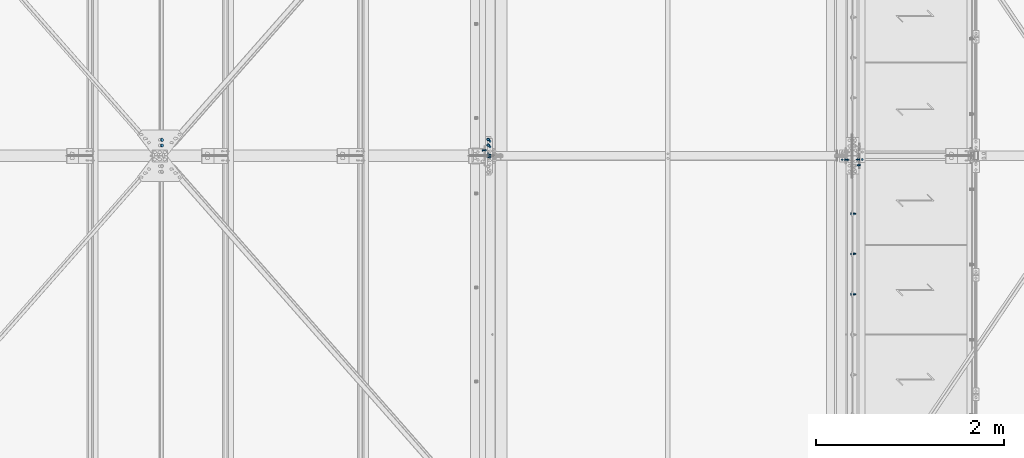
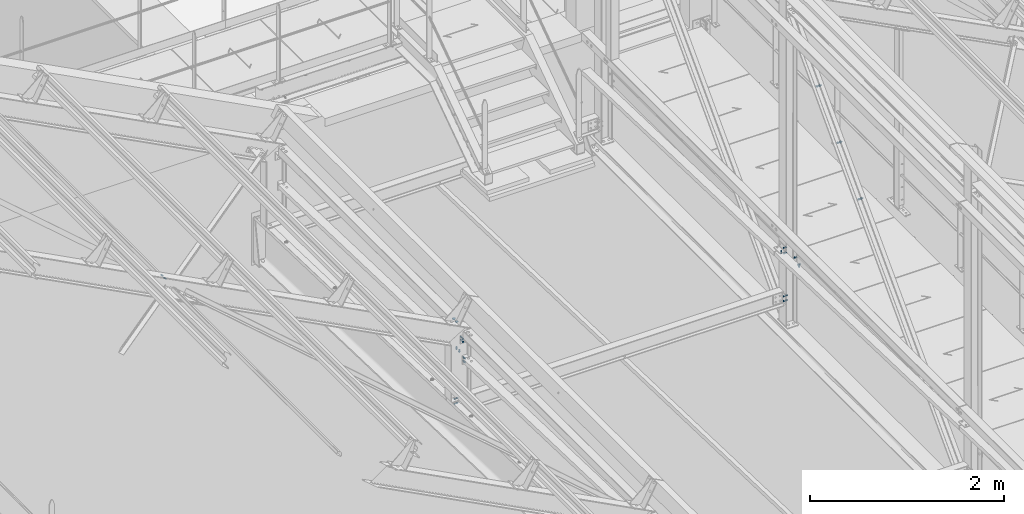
# One storey, part 283 of 362: 17 mechanical fasteners.
"""IFC2X3 building model written with IfcOpenShell, lengths in millimetres."""

from ifc_helpers import new_model, si_unit, frame, frame_2d, origin_with_axes, origin_2d_with_axis, place, context, subcontext, project, spatial, polyline, circle_curve, parameter, trimmed, segment, composite_curve, circle, outline, extrude, source, transform, mapped, material, type_object, element, save


model = new_model("IFC2X3")

# Units and contexts
model_context = context("Model", 3, precision=1e-05, world=origin_with_axes())
body_context = subcontext(model_context, "Body", "Model", "MODEL_VIEW")
ifc_project = project(units=[si_unit("LENGTHUNIT", "METRE", prefix="MILLI"), si_unit("AREAUNIT", "SQUARE_METRE"), si_unit("VOLUMEUNIT", "CUBIC_METRE"), si_unit("MASSUNIT", "GRAM", prefix="KILO"), si_unit("TIMEUNIT", "SECOND"), si_unit("PLANEANGLEUNIT", "RADIAN"), si_unit("SOLIDANGLEUNIT", "STERADIAN"), si_unit("THERMODYNAMICTEMPERATUREUNIT", "DEGREE_CELSIUS"), si_unit("LUMINOUSINTENSITYUNIT", "LUMEN")], contexts=[model_context])

# Site, building, storey
site_placement = place(None, origin_with_axes())
site = spatial("IfcSite", under=ifc_project, at=site_placement, Name="Undefined", CompositionType="ELEMENT")
building_placement = place(site_placement, origin_with_axes())
building = spatial("IfcBuilding", under=site, at=building_placement, Name="Undefined", CompositionType="ELEMENT")
storey_placement = place(building_placement, origin_with_axes())
storey = spatial("IfcBuildingStorey", under=building, at=storey_placement, Name="Undefined", CompositionType="ELEMENT", Elevation=0.0)

# Mechanical fasteners
ifc_material_1 = material(Name="6.8")
mechanical_fastener_type = type_object("IfcMechanicalFastenerType", Name="Bolt assembly")
shared_shape_1 = source(origin_with_axes(), body_context, "Body", "SweptSolid", [
    extrude(circle(Radius=15.0, at=origin_2d_with_axis()), frame((0.0, 0.0, 0.0), z_axis=(0.0, 1.0, 0.0), x_axis=(1.0, 0.0, 0.0)), (0.0, 0.0, 1.0), 4.1),
])
for number, where, z_axis, x_axis, name in (
    (1, (16133.5387402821, 11509.9989316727, 10309.7134244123), (-0.886082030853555, 2.26369604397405e-05, 0.463528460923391), (2.00950000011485e-05, 0.999999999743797, -1.04209999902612e-05), "Bolt assembly"),
    (2, (19599.9999999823, 11573.5, 8550.0), (1.0, 0.0, 0.0), (0.0, -1.0, 0.0), "Bolt assembly"),
):
    element("IfcMechanicalFastener", number, at=place(storey_placement, frame(where, z_axis=z_axis, x_axis=x_axis)), inside=storey, type_object=mechanical_fastener_type, material=ifc_material_1, Name=name, NominalDiameter=30.0, NominalLength=4.0, context=body_context, shape_type="MappedRepresentation", body=[
        mapped(shared_shape_1, transform((0.0, 0.0, 0.0))),
        mapped(shared_shape_1, transform((60.0, 0.0, 0.0))),
    ])
ifc_material_2 = material(Name="8.8-SB-ZINGUE")
shared_shape_2 = source(origin_with_axes(), body_context, "Body", "SweptSolid", [
    extrude(circle(Radius=9.0, at=origin_2d_with_axis()), frame((0.0, -10.9000000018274, 0.0), z_axis=(0.0, 1.0, 0.0), x_axis=(1.0, 0.0, 0.0)), (0.0, 0.0, 1.0), 6.0),
    extrude(circle(Radius=9.0, at=origin_2d_with_axis()), frame((0.0, 4.9000000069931, 0.0), z_axis=(0.0, 1.0, 0.0), x_axis=(1.0, 0.0, 0.0)), (0.0, 0.0, 1.0), 6.1),
    extrude(circle(Radius=9.0, at=origin_2d_with_axis()), frame((0.0, -3.99999923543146, 0.0), z_axis=(0.0, 1.0, 0.0), x_axis=(1.0, 0.0, 0.0)), (0.0, 0.0, 1.0), 8.0),
    extrude(outline(polyline([(13.85640646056, 0.0), (6.92820323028, 12.0000000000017), (-6.92820323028, 12.0000000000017), (-13.85640646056, 0.0), (-6.92820323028, -12.0000000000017), (6.92820323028, -12.0000000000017), (13.85640646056, 0.0)])), frame((0.0, -21.5600000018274, 0.0), z_axis=(0.0, 1.0, 0.0), x_axis=(1.0, 0.0, 0.0)), (0.0, 0.0, 1.0), 10.56),
    extrude(circle(Radius=8.0, at=origin_2d_with_axis()), frame((0.0, -11.0000000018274, 0.0), z_axis=(0.0, 1.0, 0.0), x_axis=(1.0, 0.0, 0.0)), (0.0, 0.0, 1.0), 50.0),
    extrude(outline(polyline([(15.3344231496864, 0.0), (7.6672115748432, 13.2800000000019), (-7.6672115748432, 13.2800000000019), (-15.3344231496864, 0.0), (-7.6672115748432, -13.2800000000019), (7.6672115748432, -13.2800000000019), (15.3344231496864, 0.0)])), frame((0.0, 11.0000000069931, 0.0), z_axis=(0.0, 1.0, 0.0), x_axis=(1.0, 0.0, 0.0)), (0.0, 0.0, 1.0), 10.56),
])
for number, where, z_axis, x_axis, name in (
    (3, (23470.0, 9928.4237971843, 9692.39401441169), (0.0, 1.0, 0.0), (0.0, 0.0, 1.0), "Bolt assembly"),
    (4, (23470.0, 10356.8475934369, 10141.7880296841), (0.0, 1.0, 0.0), (0.0, 0.0, 1.0), "Bolt assembly"),
    (5, (23470.0, 10785.2713896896, 10591.1820449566), (0.0, 1.0, 0.0), (0.0, 0.0, 1.0), "Bolt assembly"),
):
    element("IfcMechanicalFastener", number, at=place(storey_placement, frame(where, z_axis=z_axis, x_axis=x_axis)), inside=storey, type_object=mechanical_fastener_type, material=ifc_material_2, Name=name, NominalDiameter=16.0, NominalLength=50.0, context=body_context, shape_type="MappedRepresentation", body=[
        mapped(shared_shape_2, transform((0.0, 0.0, 0.0))),
    ])
shared_shape_3 = source(origin_with_axes(), body_context, "Body", "SweptSolid", [
    extrude(circle(Radius=7.0, at=origin_2d_with_axis()), frame((0.0, -4.90000000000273, 0.0), z_axis=(0.0, 1.0, 0.0), x_axis=(1.0, 0.0, 0.0)), (0.0, 0.0, 1.0), 5.0),
    extrude(circle(Radius=7.0, at=origin_2d_with_axis()), frame((0.0, -0.100011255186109, 0.0), z_axis=(0.0, 1.0, 0.0), x_axis=(1.0, 0.0, 0.0)), (0.0, 0.0, 1.0), 7.1),
    extrude(outline(polyline([(10.39230484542, 0.0), (5.19615242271, 9.00000000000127), (-5.19615242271, 9.00000000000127), (-10.39230484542, 0.0), (-5.19615242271, -9.00000000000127), (5.19615242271, -9.00000000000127), (10.39230484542, 0.0)])), frame((0.0, -12.9200004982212, 0.0), z_axis=(0.0, 1.0, 0.0), x_axis=(1.0, 0.0, 0.0)), (0.0, 0.0, 1.0), 7.92),
    extrude(circle(Radius=6.0, at=origin_2d_with_axis()), frame((0.0, -5.00000000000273, 0.0), z_axis=(0.0, 1.0, 0.0), x_axis=(1.0, 0.0, 0.0)), (0.0, 0.0, 1.0), 30.0),
    extrude(outline(polyline([(11.5008173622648, 0.0), (5.7504086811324, 9.96000000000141), (-5.7504086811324, 9.96000000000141), (-11.5008173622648, 0.0), (-5.7504086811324, -9.96000000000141), (5.7504086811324, -9.96000000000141), (11.5008173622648, 0.0)])), frame((0.0, 7.0, 0.0), z_axis=(0.0, 1.0, 0.0), x_axis=(1.0, 0.0, 0.0)), (0.0, 0.0, 1.0), 7.92),
])
mechanical_fastener_1_placement = place(storey_placement, frame((23576.49994422, 11359.9999999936, 7950.00000000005), z_axis=(0.0, -1.0, 0.0), x_axis=(-1.0, 0.0, 0.0)))
element("IfcMechanicalFastener", 6, at=mechanical_fastener_1_placement, inside=storey, type_object=mechanical_fastener_type, material=ifc_material_2, Name="Bolt assembly", NominalDiameter=12.0, NominalLength=30.0, context=body_context, shape_type="MappedRepresentation", body=[
    mapped(shared_shape_3, transform((0.0, 0.0, 0.0))),
])
shared_shape_4 = source(origin_with_axes(), body_context, "Body", "SweptSolid", [
    extrude(circle(Radius=7.0, at=origin_2d_with_axis()), frame((0.0, -0.108038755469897, 0.0), z_axis=(0.0, 1.0, 0.0), x_axis=(1.0, 0.0, 0.0)), (0.0, 0.0, 1.0), 5.1),
    extrude(circle(Radius=7.0, at=origin_2d_with_axis()), frame((0.0, -6.4, 0.0), z_axis=(0.0, 1.0, 0.0), x_axis=(1.0, 0.0, 0.0)), (0.0, 0.0, 1.0), 6.0),
    extrude(outline(polyline([(10.39230484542, 0.0), (5.19615242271, 9.00000000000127), (-5.19615242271, 9.00000000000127), (-10.39230484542, 0.0), (-5.19615242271, -9.00000000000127), (5.19615242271, -9.00000000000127), (10.39230484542, 0.0)])), frame((0.0, -14.42, 0.0), z_axis=(0.0, 1.0, 0.0), x_axis=(1.0, 0.0, 0.0)), (0.0, 0.0, 1.0), 7.92),
    extrude(circle(Radius=6.0, at=origin_2d_with_axis()), frame((0.0, -6.5, 0.0), z_axis=(0.0, 1.0, 0.0), x_axis=(1.0, 0.0, 0.0)), (0.0, 0.0, 1.0), 30.0),
    extrude(outline(polyline([(11.5008173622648, 0.0), (5.7504086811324, 9.96000000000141), (-5.7504086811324, 9.96000000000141), (-11.5008173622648, 0.0), (-5.7504086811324, -9.96000000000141), (5.7504086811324, -9.96000000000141), (11.5008173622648, 0.0)])), frame((0.0, 4.99194106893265, 0.0), z_axis=(0.0, 1.0, 0.0), x_axis=(1.0, 0.0, 0.0)), (0.0, 0.0, 1.0), 7.92),
])
mechanical_fastener_2_placement = place(storey_placement, frame((23541.4918295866, 11299.9999999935, 8015.00000000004), z_axis=(0.0, 0.0, 1.0), x_axis=(0.0, 1.0, 0.0)))
element("IfcMechanicalFastener", 7, at=mechanical_fastener_2_placement, inside=storey, type_object=mechanical_fastener_type, material=ifc_material_2, Name="Bolt assembly", NominalDiameter=12.0, NominalLength=30.0, context=body_context, shape_type="MappedRepresentation", body=[
    mapped(shared_shape_4, transform((0.0, 0.0, 0.0))),
])
shared_shape_5 = source(origin_with_axes(), body_context, "Body", "SweptSolid", [
    extrude(circle(Radius=7.0, at=origin_2d_with_axis()), frame((0.0, -0.10007666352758, 0.0), z_axis=(0.0, 1.0, 0.0), x_axis=(1.0, 0.0, 0.0)), (0.0, 0.0, 1.0), 8.6),
    extrude(circle(Radius=7.0, at=origin_2d_with_axis()), frame((0.0, -4.89994333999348, 0.0), z_axis=(0.0, 1.0, 0.0), x_axis=(1.0, 0.0, 0.0)), (0.0, 0.0, 1.0), 5.0),
    extrude(outline(polyline([(10.39230484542, 0.0), (5.19615242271, 9.00000000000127), (-5.19615242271, 9.00000000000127), (-10.39230484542, 0.0), (-5.19615242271, -9.00000000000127), (5.19615242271, -9.00000000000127), (10.39230484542, 0.0)])), frame((0.0, -12.9199433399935, 0.0), z_axis=(0.0, 1.0, 0.0), x_axis=(1.0, 0.0, 0.0)), (0.0, 0.0, 1.0), 7.92),
    extrude(circle(Radius=6.0, at=origin_2d_with_axis()), frame((0.0, -4.99994333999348, 0.0), z_axis=(0.0, 1.0, 0.0), x_axis=(1.0, 0.0, 0.0)), (0.0, 0.0, 1.0), 30.0),
    extrude(outline(polyline([(11.5008173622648, 0.0), (5.7504086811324, 9.96000000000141), (-5.7504086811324, 9.96000000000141), (-11.5008173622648, 0.0), (-5.7504086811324, -9.96000000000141), (5.7504086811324, -9.96000000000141), (11.5008173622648, 0.0)])), frame((0.0, 8.49994421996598, 0.0), z_axis=(0.0, 1.0, 0.0), x_axis=(1.0, 0.0, 0.0)), (0.0, 0.0, 1.0), 7.92),
])
mechanical_fastener_3_placement = place(storey_placement, frame((23536.49994422, 11360.0000009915, 8070.00000000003), z_axis=(0.0, 1.0, 0.0), x_axis=(0.0, 0.0, -1.0)))
element("IfcMechanicalFastener", 8, at=mechanical_fastener_3_placement, inside=storey, type_object=mechanical_fastener_type, material=ifc_material_2, Name="Bolt assembly", NominalDiameter=12.0, NominalLength=30.0, context=body_context, shape_type="MappedRepresentation", body=[
    mapped(shared_shape_5, transform((0.0, 0.0, 0.0))),
])
shared_shape_6 = source(origin_with_axes(), body_context, "Body", "SweptSolid", [
    extrude(circle(Radius=7.0, at=origin_2d_with_axis()), frame((0.0, -3.90012822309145, 0.0), z_axis=(0.0, 1.0, 0.0), x_axis=(1.0, 0.0, 0.0)), (0.0, 0.0, 1.0), 4.0),
    extrude(outline(composite_curve([segment(polyline([(-7.0, 7.0), (7.0, 7.0)]), True, "CONTINUOUS"), segment(trimmed(circle_curve(frame_2d((7.0, 0.0), x_axis=(0.0, 1.0)), 7.0), [parameter(0.0)], [parameter(3.14159265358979)], False, "PARAMETER"), True, "CONTINUOUS"), segment(polyline([(7.0, -7.0), (-7.0, -7.0)]), True, "CONTINUOUS"), segment(trimmed(circle_curve(frame_2d((-7.0, 0.0), x_axis=(0.0, -1.0)), 7.0), [parameter(0.0)], [parameter(3.14159265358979)], False, "PARAMETER"), True, "DISCONTINUOUS")], self_intersect=False)), frame((0.0, -0.100011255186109, 0.0), z_axis=(0.0, 1.0, 0.0), x_axis=(1.0, 0.0, 0.0)), (0.0, 0.0, 1.0), 6.1),
    extrude(outline(polyline([(10.39230484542, 0.0), (5.19615242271, 9.00000000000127), (-5.19615242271, 9.00000000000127), (-10.39230484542, 0.0), (-5.19615242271, -9.00000000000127), (5.19615242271, -9.00000000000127), (10.39230484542, 0.0)])), frame((0.0, -11.9201282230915, 0.0), z_axis=(0.0, 1.0, 0.0), x_axis=(1.0, 0.0, 0.0)), (0.0, 0.0, 1.0), 7.92),
    extrude(circle(Radius=6.0, at=origin_2d_with_axis()), frame((0.0, -4.00012822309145, 0.0), z_axis=(0.0, 1.0, 0.0), x_axis=(1.0, 0.0, 0.0)), (0.0, 0.0, 1.0), 30.0),
    extrude(circle(Radius=10.8, at=origin_2d_with_axis()), frame((0.0, 6.0, 0.0), z_axis=(0.0, 1.0, 0.0), x_axis=(1.0, 0.0, 0.0)), (0.0, 0.0, 1.0), 3.96),
    extrude(outline(polyline([(11.5008173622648, 0.0), (5.7504086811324, 9.96000000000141), (-5.7504086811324, 9.96000000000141), (-11.5008173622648, 0.0), (-5.7504086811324, -9.96000000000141), (5.7504086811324, -9.96000000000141), (11.5008173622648, 0.0)])), frame((0.0, 9.9600084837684, 0.0), z_axis=(0.0, 1.0, 0.0), x_axis=(1.0, 0.0, 0.0)), (0.0, 0.0, 1.0), 7.92),
])
mechanical_fastener_4_placement = place(storey_placement, frame((19619.9999999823, 11554.9555719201, 8188.12886622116), z_axis=(1.0, 0.0, 0.0), x_axis=(0.0, -0.999506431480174, 0.0314148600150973)))
element("IfcMechanicalFastener", 9, at=mechanical_fastener_4_placement, inside=storey, type_object=mechanical_fastener_type, material=ifc_material_2, Name="Bolt assembly", NominalDiameter=12.0, NominalLength=30.0, context=body_context, shape_type="MappedRepresentation", body=[
    mapped(shared_shape_6, transform((0.0, 0.0, 0.0))),
    mapped(shared_shape_6, transform((60.0, 0.0, 0.0))),
])
shared_shape_7 = source(origin_with_axes(), body_context, "Body", "SweptSolid", [
    extrude(circle(Radius=7.0, at=origin_2d_with_axis()), frame((0.0, -3.09999932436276, 0.0), z_axis=(0.0, 1.0, 0.0), x_axis=(1.0, 0.0, 0.0)), (0.0, 0.0, 1.0), 6.2),
    extrude(circle(Radius=7.0, at=origin_2d_with_axis()), frame((0.0, -9.40000000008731, 0.0), z_axis=(0.0, 1.0, 0.0), x_axis=(1.0, 0.0, 0.0)), (0.0, 0.0, 1.0), 6.0),
    extrude(circle(Radius=7.0, at=origin_2d_with_axis()), frame((0.0, 3.40000111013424, 0.0), z_axis=(0.0, 1.0, 0.0), x_axis=(1.0, 0.0, 0.0)), (0.0, 0.0, 1.0), 6.1),
    extrude(outline(polyline([(10.39230484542, 0.0), (5.19615242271, 9.00000000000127), (-5.19615242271, 9.00000000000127), (-10.39230484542, 0.0), (-5.19615242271, -9.00000000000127), (5.19615242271, -9.00000000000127), (10.39230484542, 0.0)])), frame((0.0, -17.4200000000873, 0.0), z_axis=(0.0, 1.0, 0.0), x_axis=(1.0, 0.0, 0.0)), (0.0, 0.0, 1.0), 7.92),
    extrude(circle(Radius=6.0, at=origin_2d_with_axis()), frame((0.0, -9.50000000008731, 0.0), z_axis=(0.0, 1.0, 0.0), x_axis=(1.0, 0.0, 0.0)), (0.0, 0.0, 1.0), 40.0),
    extrude(outline(polyline([(11.5008173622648, 0.0), (5.7504086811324, 9.96000000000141), (-5.7504086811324, 9.96000000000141), (-11.5008173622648, 0.0), (-5.7504086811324, -9.96000000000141), (5.7504086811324, -9.96000000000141), (11.5008173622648, 0.0)])), frame((0.0, 9.50000815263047, 0.0), z_axis=(0.0, 1.0, 0.0), x_axis=(1.0, 0.0, 0.0)), (0.0, 0.0, 1.0), 7.92),
])
mechanical_fastener_5_placement = place(storey_placement, frame((19620.0, 11400.0, 8107.99910819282), z_axis=(1.0, 0.0, 0.0), x_axis=(0.0, 0.0, 1.0)))
element("IfcMechanicalFastener", 10, at=mechanical_fastener_5_placement, inside=storey, type_object=mechanical_fastener_type, material=ifc_material_2, Name="Bolt assembly", NominalDiameter=12.0, NominalLength=40.0, context=body_context, shape_type="MappedRepresentation", body=[
    mapped(shared_shape_7, transform((0.0, 0.0, 0.0))),
    mapped(shared_shape_7, transform((49.9999999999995, 0.0, -3.63797880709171e-12))),
])
shared_shape_8 = source(origin_with_axes(), body_context, "Body", "SweptSolid", [
    extrude(circle(Radius=7.0, at=origin_2d_with_axis()), frame((0.0, -3.10006822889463, 0.0), z_axis=(0.0, 1.0, 0.0), x_axis=(1.0, 0.0, 0.0)), (0.0, 0.0, 1.0), 6.2),
    extrude(circle(Radius=7.0, at=origin_2d_with_axis()), frame((0.0, 3.3998951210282, 0.0), z_axis=(0.0, 1.0, 0.0), x_axis=(1.0, 0.0, 0.0)), (0.0, 0.0, 1.0), 10.1),
    extrude(circle(Radius=7.0, at=origin_2d_with_axis()), frame((0.0, -13.4001048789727, 0.0), z_axis=(0.0, 1.0, 0.0), x_axis=(1.0, 0.0, 0.0)), (0.0, 0.0, 1.0), 10.0),
    extrude(outline(polyline([(10.39230484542, 0.0), (5.19615242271, 9.00000000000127), (-5.19615242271, 9.00000000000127), (-10.39230484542, 0.0), (-5.19615242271, -9.00000000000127), (5.19615242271, -9.00000000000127), (10.39230484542, 0.0)])), frame((0.0, -21.4201048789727, 0.0), z_axis=(0.0, 1.0, 0.0), x_axis=(1.0, 0.0, 0.0)), (0.0, 0.0, 1.0), 7.92),
    extrude(circle(Radius=6.0, at=origin_2d_with_axis()), frame((0.0, -13.5000574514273, 0.0), z_axis=(0.0, 1.0, 0.0), x_axis=(1.0, 0.0, 0.0)), (0.0, 0.0, 1.0), 50.0),
    extrude(outline(polyline([(11.5008173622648, 0.0), (5.7504086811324, 9.96000000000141), (-5.7504086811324, 9.96000000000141), (-11.5008173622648, 0.0), (-5.7504086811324, -9.96000000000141), (5.7504086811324, -9.96000000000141), (11.5008173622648, 0.0)])), frame((0.0, 13.4998951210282, 0.0), z_axis=(0.0, 1.0, 0.0), x_axis=(1.0, 0.0, 0.0)), (0.0, 0.0, 1.0), 7.92),
])
mechanical_fastener_6_placement = place(storey_placement, frame((19599.9999999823, 11400.000104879, 8370.0), z_axis=(-1.0, 0.0, 0.0), x_axis=(0.0, 0.0, 1.0)))
element("IfcMechanicalFastener", 11, at=mechanical_fastener_6_placement, inside=storey, type_object=mechanical_fastener_type, material=ifc_material_2, Name="Bolt assembly", NominalDiameter=12.0, NominalLength=50.0, context=body_context, shape_type="MappedRepresentation", body=[
    mapped(shared_shape_8, transform((0.0, 0.0, 0.0))),
    mapped(shared_shape_8, transform((40.0, 0.0, 0.0))),
])
shared_shape_9 = source(origin_with_axes(), body_context, "Body", "SweptSolid", [
    extrude(circle(Radius=7.0, at=origin_2d_with_axis()), frame((0.0, -1.35657197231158, 0.0), z_axis=(0.0, 1.0, 0.0), x_axis=(1.0, 0.0, 0.0)), (0.0, 0.0, 1.0), 4.1),
    extrude(circle(Radius=7.0, at=origin_2d_with_axis()), frame((0.0, -8.15654244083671, 0.0), z_axis=(0.0, 1.0, 0.0), x_axis=(1.0, 0.0, 0.0)), (0.0, 0.0, 1.0), 7.0),
    extrude(outline(polyline([(10.39230484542, 0.0), (5.19615242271, 9.00000000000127), (-5.19615242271, 9.00000000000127), (-10.39230484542, 0.0), (-5.19615242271, -9.00000000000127), (5.19615242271, -9.00000000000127), (10.39230484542, 0.0)])), frame((0.0, -16.1765424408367, 0.0), z_axis=(0.0, 1.0, 0.0), x_axis=(1.0, 0.0, 0.0)), (0.0, 0.0, 1.0), 7.92),
    extrude(circle(Radius=6.0, at=origin_2d_with_axis()), frame((0.0, -8.25654244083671, 0.0), z_axis=(0.0, 1.0, 0.0), x_axis=(1.0, 0.0, 0.0)), (0.0, 0.0, 1.0), 30.0),
    extrude(outline(polyline([(11.5008173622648, 0.0), (5.7504086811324, 9.96000000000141), (-5.7504086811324, 9.96000000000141), (-11.5008173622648, 0.0), (-5.7504086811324, -9.96000000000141), (5.7504086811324, -9.96000000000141), (11.5008173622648, 0.0)])), frame((0.0, 2.74342802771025, 0.0), z_axis=(0.0, 1.0, 0.0), x_axis=(1.0, 0.0, 0.0)), (0.0, 0.0, 1.0), 7.92),
])
mechanical_fastener_7_placement = place(storey_placement, frame((23363.5001163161, 11358.7434557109, 8197.04057146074), z_axis=(3.14103090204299e-11, 0.999506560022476, -0.0314107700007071), x_axis=(1.0, 0.0, 0.0)))
element("IfcMechanicalFastener", 12, at=mechanical_fastener_7_placement, inside=storey, type_object=mechanical_fastener_type, material=ifc_material_2, Name="Bolt assembly", NominalDiameter=12.0, NominalLength=30.0, context=body_context, shape_type="MappedRepresentation", body=[
    mapped(shared_shape_9, transform((0.0, 0.0, 0.0))),
])
shared_shape_10 = source(origin_with_axes(), body_context, "Body", "SweptSolid", [
    extrude(circle(Radius=7.0, at=origin_2d_with_axis()), frame((0.0, -0.10007666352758, 0.0), z_axis=(0.0, 1.0, 0.0), x_axis=(1.0, 0.0, 0.0)), (0.0, 0.0, 1.0), 8.6),
    extrude(circle(Radius=7.0, at=origin_2d_with_axis()), frame((0.0, -6.9, 0.0), z_axis=(0.0, 1.0, 0.0), x_axis=(1.0, 0.0, 0.0)), (0.0, 0.0, 1.0), 7.0),
    extrude(outline(polyline([(10.39230484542, 0.0), (5.19615242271, 9.00000000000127), (-5.19615242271, 9.00000000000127), (-10.39230484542, 0.0), (-5.19615242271, -9.00000000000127), (5.19615242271, -9.00000000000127), (10.39230484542, 0.0)])), frame((0.0, -14.92, 0.0), z_axis=(0.0, 1.0, 0.0), x_axis=(1.0, 0.0, 0.0)), (0.0, 0.0, 1.0), 7.92),
    extrude(circle(Radius=6.0, at=origin_2d_with_axis()), frame((0.0, -7.0, 0.0), z_axis=(0.0, 1.0, 0.0), x_axis=(1.0, 0.0, 0.0)), (0.0, 0.0, 1.0), 30.0),
    extrude(outline(polyline([(11.5008173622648, 0.0), (5.7504086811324, 9.96000000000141), (-5.7504086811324, 9.96000000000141), (-11.5008173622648, 0.0), (-5.7504086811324, -9.96000000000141), (5.7504086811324, -9.96000000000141), (11.5008173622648, 0.0)])), frame((0.0, 8.49988372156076, 0.0), z_axis=(0.0, 1.0, 0.0), x_axis=(1.0, 0.0, 0.0)), (0.0, 0.0, 1.0), 7.92),
])
mechanical_fastener_8_placement = place(storey_placement, frame((23403.5001162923, 11359.999998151, 8238.27799323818), z_axis=(0.0, 0.0, 1.0), x_axis=(0.0, -1.0, 0.0)))
element("IfcMechanicalFastener", 13, at=mechanical_fastener_8_placement, inside=storey, type_object=mechanical_fastener_type, material=ifc_material_2, Name="Bolt assembly", NominalDiameter=12.0, NominalLength=30.0, context=body_context, shape_type="MappedRepresentation", body=[
    mapped(shared_shape_10, transform((0.0, 0.0, 0.0))),
])
shared_shape_11 = source(origin_with_axes(), body_context, "Body", "SweptSolid", [
    extrude(circle(Radius=7.0, at=origin_2d_with_axis()), frame((0.0, -0.10007666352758, 0.0), z_axis=(0.0, 1.0, 0.0), x_axis=(1.0, 0.0, 0.0)), (0.0, 0.0, 1.0), 8.6),
    extrude(circle(Radius=7.0, at=origin_2d_with_axis()), frame((0.0, -3.89999843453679, 0.0), z_axis=(0.0, 1.0, 0.0), x_axis=(1.0, 0.0, 0.0)), (0.0, 0.0, 1.0), 4.0),
    extrude(outline(polyline([(10.39230484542, 0.0), (5.19615242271, 9.00000000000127), (-5.19615242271, 9.00000000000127), (-10.39230484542, 0.0), (-5.19615242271, -9.00000000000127), (5.19615242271, -9.00000000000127), (10.39230484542, 0.0)])), frame((0.0, -11.9199984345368, 0.0), z_axis=(0.0, 1.0, 0.0), x_axis=(1.0, 0.0, 0.0)), (0.0, 0.0, 1.0), 7.92),
    extrude(circle(Radius=6.0, at=origin_2d_with_axis()), frame((0.0, -3.99999923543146, 0.0), z_axis=(0.0, 1.0, 0.0), x_axis=(1.0, 0.0, 0.0)), (0.0, 0.0, 1.0), 30.0),
    extrude(outline(polyline([(11.5008173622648, 0.0), (5.7504086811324, 9.96000000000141), (-5.7504086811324, 9.96000000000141), (-11.5008173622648, 0.0), (-5.7504086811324, -9.96000000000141), (5.7504086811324, -9.96000000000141), (11.5008173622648, 0.0)])), frame((0.0, 8.49988372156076, 0.0), z_axis=(0.0, 1.0, 0.0), x_axis=(1.0, 0.0, 0.0)), (0.0, 0.0, 1.0), 7.92),
])
mechanical_fastener_9_placement = place(storey_placement, frame((23403.5001162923, 11359.999998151, 8168.24342924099), z_axis=(0.0, 0.0, 1.0), x_axis=(0.0, -1.0, 0.0)))
element("IfcMechanicalFastener", 14, at=mechanical_fastener_9_placement, inside=storey, type_object=mechanical_fastener_type, material=ifc_material_2, Name="Bolt assembly", NominalDiameter=12.0, NominalLength=30.0, context=body_context, shape_type="MappedRepresentation", body=[
    mapped(shared_shape_11, transform((0.0, 0.0, 0.0))),
])
shared_shape_12 = source(origin_with_axes(), body_context, "Body", "SweptSolid", [
    extrude(circle(Radius=7.0, at=origin_2d_with_axis()), frame((0.0, -0.100011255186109, 0.0), z_axis=(0.0, 1.0, 0.0), x_axis=(1.0, 0.0, 0.0)), (0.0, 0.0, 1.0), 8.6),
    extrude(circle(Radius=7.0, at=origin_2d_with_axis()), frame((0.0, -9.9, 0.0), z_axis=(0.0, 1.0, 0.0), x_axis=(1.0, 0.0, 0.0)), (0.0, 0.0, 1.0), 10.0),
    extrude(outline(polyline([(10.39230484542, 0.0), (5.19615242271, 9.00000000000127), (-5.19615242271, 9.00000000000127), (-10.39230484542, 0.0), (-5.19615242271, -9.00000000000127), (5.19615242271, -9.00000000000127), (10.39230484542, 0.0)])), frame((0.0, -17.92, 0.0), z_axis=(0.0, 1.0, 0.0), x_axis=(1.0, 0.0, 0.0)), (0.0, 0.0, 1.0), 7.92),
    extrude(circle(Radius=6.0, at=origin_2d_with_axis()), frame((0.0, -10.0000010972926, 0.0), z_axis=(0.0, 1.0, 0.0), x_axis=(1.0, 0.0, 0.0)), (0.0, 0.0, 1.0), 40.0),
    extrude(outline(polyline([(11.5008173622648, 0.0), (5.7504086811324, 9.96000000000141), (-5.7504086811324, 9.96000000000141), (-11.5008173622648, 0.0), (-5.7504086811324, -9.96000000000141), (5.7504086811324, -9.96000000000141), (11.5008173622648, 0.0)])), frame((0.0, 8.49999994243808, 0.0), z_axis=(0.0, 1.0, 0.0), x_axis=(1.0, 0.0, 0.0)), (0.0, 0.0, 1.0), 7.92),
])
for number, where, z_axis, x_axis, name in (
    (15, (23403.5000013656, 11355.0000542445, 7573.09547800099), (0.0, 0.0, 1.0), (0.0, -1.0, 0.0), "Bolt assembly"),
    (16, (23403.5000013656, 11355.0000542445, 7633.12509986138), (0.0, 0.0, 1.0), (0.0, -1.0, 0.0), "Bolt assembly"),
):
    element("IfcMechanicalFastener", number, at=place(storey_placement, frame(where, z_axis=z_axis, x_axis=x_axis)), inside=storey, type_object=mechanical_fastener_type, material=ifc_material_2, Name=name, NominalDiameter=12.0, NominalLength=40.0, context=body_context, shape_type="MappedRepresentation", body=[
        mapped(shared_shape_12, transform((0.0, 0.0, 0.0))),
    ])
shared_shape_13 = source(origin_with_axes(), body_context, "Body", "SweptSolid", [
    extrude(circle(Radius=7.0, at=origin_2d_with_axis()), frame((0.0, -5.45000018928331, 0.0), z_axis=(0.0, 1.0, 0.0), x_axis=(1.0, 0.0, 0.0)), (0.0, 0.0, 1.0), 11.1),
    extrude(circle(Radius=7.0, at=origin_2d_with_axis()), frame((0.0, 5.90002706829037, 0.0), z_axis=(0.0, 1.0, 0.0), x_axis=(1.0, 0.0, 0.0)), (0.0, 0.0, 1.0), 10.1),
    extrude(outline(polyline([(10.39230484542, 0.0), (5.19615242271, 9.00000000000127), (-5.19615242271, 9.00000000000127), (-10.39230484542, 0.0), (-5.19615242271, -9.00000000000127), (5.19615242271, -9.00000000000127), (10.39230484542, 0.0)])), frame((0.0, -13.4700001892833, 0.0), z_axis=(0.0, 1.0, 0.0), x_axis=(1.0, 0.0, 0.0)), (0.0, 0.0, 1.0), 7.92),
    extrude(circle(Radius=6.0, at=origin_2d_with_axis()), frame((0.0, -5.55000018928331, 0.0), z_axis=(0.0, 1.0, 0.0), x_axis=(1.0, 0.0, 0.0)), (0.0, 0.0, 1.0), 40.0),
    extrude(outline(polyline([(11.5008173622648, 0.0), (5.7504086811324, 9.96000000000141), (-5.7504086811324, 9.96000000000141), (-11.5008173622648, 0.0), (-5.7504086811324, -9.96000000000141), (5.7504086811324, -9.96000000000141), (11.5008173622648, 0.0)])), frame((0.0, 15.9999999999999, 0.0), z_axis=(0.0, 1.0, 0.0), x_axis=(1.0, 0.0, 0.0)), (0.0, 0.0, 1.0), 7.92),
])
mechanical_fastener_10_placement = place(storey_placement, frame((19550.0, 11457.9778049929, 7599.87424697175), z_axis=(7.58071938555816e-11, 0.0314107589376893, 0.999506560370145), x_axis=(0.0, -0.999506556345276, 0.031410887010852)))
element("IfcMechanicalFastener", 17, at=mechanical_fastener_10_placement, inside=storey, type_object=mechanical_fastener_type, material=ifc_material_2, Name="Bolt assembly", NominalDiameter=12.0, NominalLength=40.0, context=body_context, shape_type="MappedRepresentation", body=[
    mapped(shared_shape_13, transform((0.0, 0.0, -30.0))),
    mapped(shared_shape_13, transform((0.0, 0.0, 30.0))),
])

save(model, "model.ifc")
